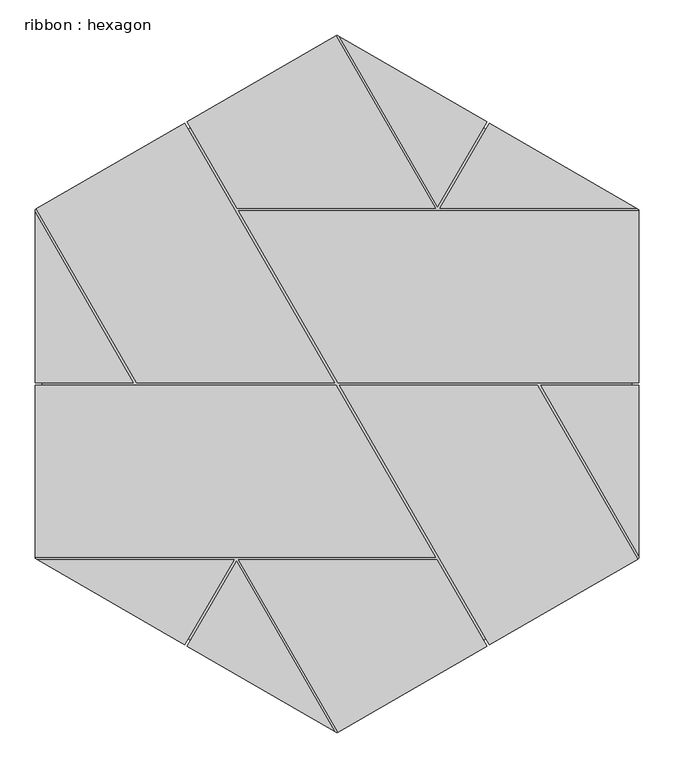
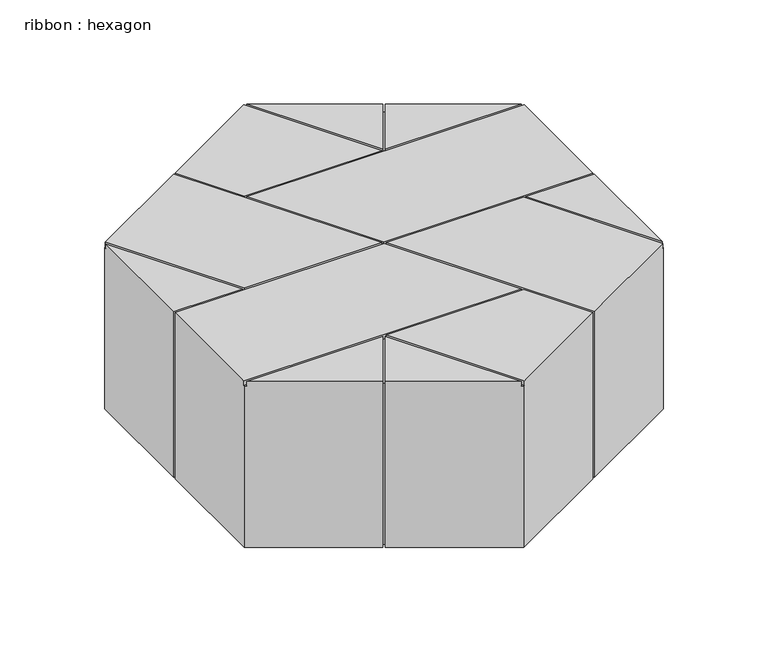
"""IFC4 building model written with IfcOpenShell, lengths in millimetres: furniture geometry, ribbon : hexagon."""

from ifc_helpers import new_model, si_unit, frame, origin, place, context, project, spatial, polyline, outline, extrude, faceted_brep, source, transform, mapped, element, save


def ribbon_hexagon_17cbd5f2(model_context):
    return source(origin(), model_context, "Body", "SolidModel", [
        faceted_brep([(208.475262, 365.089746, 39.0), (211.9393636, 363.089746, 39.0), (216.9393636, 371.75, 39.0), (430.4146257, 248.5, 39.0), (430.4146257, 2.0, 39.0), (420.4146257, 2.0, 39.0), (420.4146257, -2.0, 39.0), (430.4146257, -2.0, 39.0), (430.4146257, -248.5, 39.0), (216.9393636, -371.75, 39.0), (211.9393636, -363.089746, 39.0), (208.475262, -365.089746, 39.0), (213.475262, -373.75, 39.0), (0.0, -497.0, 39.0), (-213.475262, -373.75, 39.0), (-208.475262, -365.089746, 39.0), (-211.9393636, -363.089746, 39.0), (-216.9393636, -371.75, 39.0), (-430.4146257, -248.5, 39.0), (-430.4146257, -2.0, 39.0), (-420.4146257, -2.0, 39.0), (-420.4146257, 2.0, 39.0), (-430.4146257, 2.0, 39.0), (-430.4146257, 248.5, 39.0), (-216.9393636, 371.75, 39.0), (-211.9393636, 363.089746, 39.0), (-208.475262, 365.089746, 39.0), (-213.475262, 373.75, 39.0), (0.0, 497.0, 39.0), (213.475262, 373.75, 39.0), (-208.475262, 365.089746, 390.0), (-211.9393636, 363.089746, 390.0), (143.4715419, 252.5, 400.0), (3.4641016, 495.0, 400.0), (3.4641016, 495.0, 390.0), (143.4715419, 252.5, 390.0), (-1.7320508, 496.0, 400.0), (-213.475262, 373.75, 400.0), (-142.3168414, 250.5, 400.0), (140.0074403, 250.5, 400.0), (140.0074403, 250.5, 390.0), (-1.7320508, 496.0, 390.0), (0.0, 497.0, 390.0), (-3.4641016, 2.0, 390.0), (-285.7883832, 2.0, 390.0), (-428.6825749, 249.5, 390.0), (-430.4146257, 248.5, 390.0), (-430.4146257, 244.5, 390.0), (-290.4071854, 2.0, 390.0), (-420.4146257, 2.0, 390.0), (-420.4146257, -2.0, 390.0), (-1.1547005, -2.0, 390.0), (140.0074403, -246.5, 390.0), (-430.4146257, -246.5, 390.0), (-430.4146257, -248.5, 390.0), (-426.9505241, -250.5, 390.0), (-146.9356435, -250.5, 390.0), (-211.9393636, -363.089746, 390.0), (-208.475262, -365.089746, 390.0), (-143.4715419, -252.5, 390.0), (-3.4641016, -495.0, 390.0), (0.0, -497.0, 390.0), (1.7320508, -496.0, 390.0), (-140.0074403, -250.5, 390.0), (142.3168414, -250.5, 390.0), (208.475262, -365.089746, 390.0), (211.9393636, -363.089746, 390.0), (3.4641016, -2.0, 390.0), (285.7883832, -2.0, 390.0), (428.6825749, -249.5, 390.0), (430.4146257, -248.5, 390.0), (430.4146257, -244.5, 390.0), (290.4071854, -2.0, 390.0), (420.4146257, -2.0, 390.0), (420.4146257, 2.0, 390.0), (1.1547005, 2.0, 390.0), (-140.0074403, 246.5, 390.0), (430.4146257, 246.5, 390.0), (430.4146257, 248.5, 390.0), (426.9505241, 250.5, 390.0), (146.9356435, 250.5, 390.0), (211.9393636, 363.089746, 390.0), (208.475262, 365.089746, 390.0), (-142.3168414, 250.5, 390.0), (213.475262, 373.75, 400.0), (146.9356435, 250.5, 400.0), (216.9393636, 371.75, 400.0), (426.9505241, 250.5, 400.0), (430.4146257, 2.0, 400.0), (1.1547005, 2.0, 400.0), (-140.0074403, 246.5, 400.0), (430.4146257, 246.5, 400.0), (216.9393636, -371.75, 400.0), (3.4641016, -2.0, 400.0), (285.7883832, -2.0, 400.0), (428.6825749, -249.5, 400.0), (290.4071854, -2.0, 400.0), (430.4146257, -2.0, 400.0), (430.4146257, -244.5, 400.0), (-1.1547005, -2.0, 400.0), (140.0074403, -246.5, 400.0), (-430.4146257, -2.0, 400.0), (-430.4146257, -246.5, 400.0), (-146.9356435, -250.5, 400.0), (-216.9393636, -371.75, 400.0), (-426.9505241, -250.5, 400.0), (-3.4641016, -495.0, 400.0), (-213.475262, -373.75, 400.0), (-143.4715419, -252.5, 400.0), (142.3168414, -250.5, 400.0), (213.475262, -373.75, 400.0), (-140.0074403, -250.5, 400.0), (1.7320508, -496.0, 400.0), (-285.7883832, 2.0, 400.0), (-428.6825749, 249.5, 400.0), (-3.4641016, 2.0, 400.0), (-216.9393636, 371.75, 400.0), (-430.4146257, 244.5, 400.0), (-290.4071854, 2.0, 400.0), (-430.4146257, 2.0, 400.0)], [[[0, 1, 2, 3, 4, 5, 6, 7, 8, 9, 10, 11, 12, 13, 14, 15, 16, 17, 18, 19, 20, 21, 22, 23, 24, 25, 26, 27, 28, 29]], [[30, 26, 25, 31]], [[32, 33, 34, 35]], [[36, 37, 38, 39]], [[36, 39, 40, 41]], [[41, 42, 28, 27, 37, 36]], [[31, 43, 44, 45, 46, 47, 48, 49, 50, 51, 52, 53, 54, 55, 56, 57, 58, 59, 60, 61, 62, 63, 64, 65, 66, 67, 68, 69, 70, 71, 72, 73, 74, 75, 76, 77, 78, 79, 80, 81, 82, 35, 34, 42, 41, 40, 83, 30]], [[26, 30, 83, 38, 37, 27]], [[32, 84, 33]], [[82, 0, 29, 84, 32, 35]], [[84, 29, 28, 42, 34, 33]], [[81, 80, 85, 86, 2, 1]], [[87, 85, 80, 79]], [[0, 82, 81, 1]], [[86, 87, 79, 78, 3, 2]], [[4, 88, 89, 75, 74, 5]], [[76, 75, 89, 90]], [[86, 85, 87]], [[91, 90, 89, 88]], [[5, 74, 73, 6]], [[77, 76, 90, 91]], [[67, 66, 10, 9, 92, 93]], [[94, 95, 69, 68]], [[69, 95, 92, 9, 8, 70]], [[10, 66, 65, 11]], [[73, 72, 96, 97, 7, 6]], [[98, 96, 72, 71]], [[71, 70, 8, 7, 97, 98]], [[96, 98, 97]], [[52, 51, 99, 100]], [[101, 99, 51, 50, 20, 19]], [[100, 102, 53, 52]], [[53, 102, 101, 19, 18, 54]], [[20, 50, 49, 21]], [[57, 16, 15, 58]], [[57, 56, 103, 104, 17, 16]], [[55, 54, 18, 17, 104, 105]], [[105, 103, 56, 55]], [[99, 101, 102, 100]], [[60, 106, 107, 14, 13, 61]], [[103, 105, 104]], [[106, 60, 59, 108]], [[65, 64, 109, 110, 12, 11]], [[108, 107, 106]], [[58, 15, 14, 107, 108, 59]], [[111, 109, 64, 63]], [[62, 61, 13, 12, 110, 112]], [[112, 111, 63, 62]], [[113, 114, 45, 44]], [[113, 115, 116, 114]], [[24, 116, 115, 43, 31, 25]], [[117, 118, 48, 47]], [[117, 119, 118]], [[45, 114, 116, 24, 23, 46]], [[22, 119, 117, 47, 46, 23]], [[93, 92, 95, 94]], [[111, 112, 110, 109]], [[77, 91, 88, 4, 3, 78]], [[67, 93, 94, 68]], [[49, 48, 118, 119, 22, 21]], [[43, 115, 113, 44]], [[40, 39, 38, 83]]]),
        extrude(outline(polyline([(-347.4146257, -200.5799277), (0.0, -401.1598553), (0.0, -415.0162618), (-359.4146257, -207.5081309), (-347.4146257, -200.5799277)])), frame((0.0, 0.0, 6.0), z_axis=(0.0, 0.0, 1.0), x_axis=(1.0, 0.0, 0.0)), (0.0, 0.0, 1.0), 33.0),
        extrude(outline(polyline([(-347.4146257, 200.5799277), (-347.4146257, -200.5799277), (-359.4146257, -207.5081309), (-359.4146257, 207.5081309), (-347.4146257, 200.5799277)])), frame((0.0, 0.0, 6.0), z_axis=(0.0, 0.0, 1.0), x_axis=(1.0, 0.0, 0.0)), (0.0, 0.0, 1.0), 33.0),
        extrude(outline(polyline([(0.0, 401.1598553), (-347.4146257, 200.5799277), (-359.4146257, 207.5081309), (0.0, 415.0162618), (0.0, 401.1598553)])), frame((0.0, 0.0, 6.0), z_axis=(0.0, 0.0, 1.0), x_axis=(1.0, 0.0, 0.0)), (0.0, 0.0, 1.0), 33.0),
        extrude(outline(polyline([(347.4146257, 200.5799277), (0.0, 401.1598553), (0.0, 415.0162618), (359.4146257, 207.5081309), (347.4146257, 200.5799277)])), frame((0.0, 0.0, 6.0), z_axis=(0.0, 0.0, 1.0), x_axis=(1.0, 0.0, 0.0)), (0.0, 0.0, 1.0), 33.0),
        extrude(outline(polyline([(347.4146257, -200.5799277), (347.4146257, 200.5799277), (359.4146257, 207.5081309), (359.4146257, -207.5081309), (347.4146257, -200.5799277)])), frame((0.0, 0.0, 6.0), z_axis=(0.0, 0.0, 1.0), x_axis=(1.0, 0.0, 0.0)), (0.0, 0.0, 1.0), 33.0),
        extrude(outline(polyline([(0.0, -401.1598553), (347.4146257, -200.5799277), (359.4146257, -207.5081309), (0.0, -415.0162618), (0.0, -401.1598553)])), frame((0.0, 0.0, 6.0), z_axis=(0.0, 0.0, 1.0), x_axis=(1.0, 0.0, 0.0)), (0.0, 0.0, 1.0), 33.0),
    ])


if __name__ == "__main__":
    model = new_model("IFC4")
    model_context = context("Model", 3, world=origin())
    ifc_project = project(units=[si_unit("LENGTHUNIT", "METRE", prefix="MILLI")], contexts=[model_context])
    site = spatial("IfcSite", under=ifc_project)
    building = spatial("IfcBuilding", under=site)
    placement = place(None, origin())
    ribbon_hexagon_shape = ribbon_hexagon_17cbd5f2(model_context)
    element("IfcFurniture", 1, ObjectType="ribbon : hexagon", at=placement, inside=building, context=model_context, shape_type="MappedRepresentation", body=[
        mapped(ribbon_hexagon_shape, transform((0.0, 0.0, 0.0), x_axis=(1.0, 0.0, 0.0), y_axis=(0.0, 1.0, 0.0), z_axis=(0.0, 0.0, 1.0))),
    ])
    save(model, "model.ifc")
